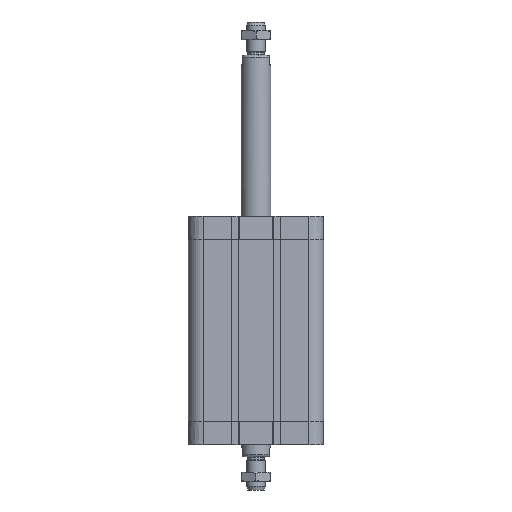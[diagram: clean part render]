
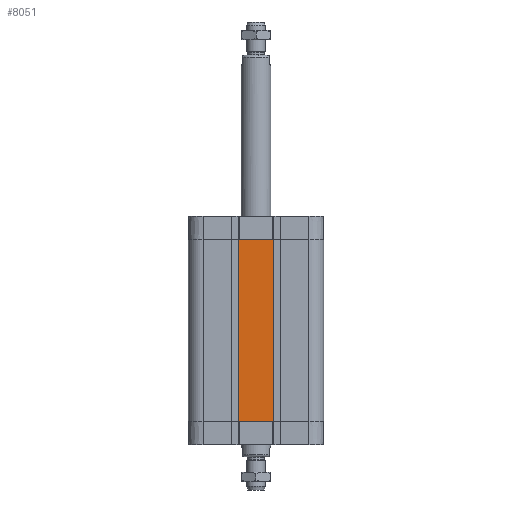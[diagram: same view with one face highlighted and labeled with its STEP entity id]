
A CAD part, left-side view. The second image highlights one B-rep face of the part: STEP entity #8051.
In plain terms, the highlighted planar face has unit normal (-1, 0, 0).
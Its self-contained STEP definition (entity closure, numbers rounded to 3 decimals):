
#1141=ORIENTED_EDGE('',*,*,#3469,.F.);
#1142=ORIENTED_EDGE('',*,*,#3470,.T.);
#1143=ORIENTED_EDGE('',*,*,#3471,.F.);
#1144=ORIENTED_EDGE('',*,*,#3472,.T.);
#3469=EDGE_CURVE('',#4598,#4599,#5411,.T.);
#3470=EDGE_CURVE('',#4598,#4600,#5412,.T.);
#3471=EDGE_CURVE('',#4601,#4600,#5413,.T.);
#3472=EDGE_CURVE('',#4601,#4599,#5414,.T.);
#4598=VERTEX_POINT('',#14356);
#4599=VERTEX_POINT('',#14357);
#4600=VERTEX_POINT('',#14359);
#4601=VERTEX_POINT('',#14361);
#5411=LINE('',#14355,#6089);
#5412=LINE('',#14358,#6090);
#5413=LINE('',#14360,#6091);
#5414=LINE('',#14362,#6092);
#6089=VECTOR('',#12098,1000.);
#6090=VECTOR('',#12099,1000.);
#6091=VECTOR('',#12100,1000.);
#6092=VECTOR('',#12101,1000.);
#6682=EDGE_LOOP('',(#1141,#1142,#1143,#1144));
#7258=FACE_BOUND('',#6682,.T.);
#7796=PLANE('',#10997);
#8051=ADVANCED_FACE('',(#7258),#7796,.T.);
#10997=AXIS2_PLACEMENT_3D('',#14354,#12096,#12097);
#12096=DIRECTION('',(-1.,0.,0.));
#12097=DIRECTION('',(0.,0.,1.));
#12098=DIRECTION('',(0.,0.,1.));
#12099=DIRECTION('',(0.,-1.,0.));
#12100=DIRECTION('',(0.,0.,-1.));
#12101=DIRECTION('',(0.,1.,0.));
#14354=CARTESIAN_POINT('',(-56.75,-56.75,0.));
#14355=CARTESIAN_POINT('',(-56.75,14.5,8.25));
#14356=CARTESIAN_POINT('',(-56.75,14.5,-136.5));
#14357=CARTESIAN_POINT('',(-56.75,14.5,16.5));
#14358=CARTESIAN_POINT('',(-56.75,-56.75,-136.5));
#14359=CARTESIAN_POINT('',(-56.75,-14.5,-136.5));
#14360=CARTESIAN_POINT('',(-56.75,-14.5,8.25));
#14361=CARTESIAN_POINT('',(-56.75,-14.5,16.5));
#14362=CARTESIAN_POINT('',(-56.75,-56.75,16.5));
